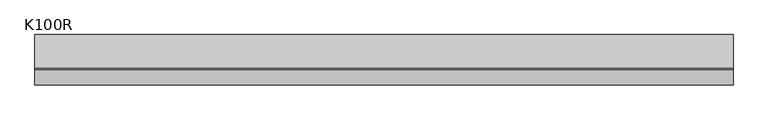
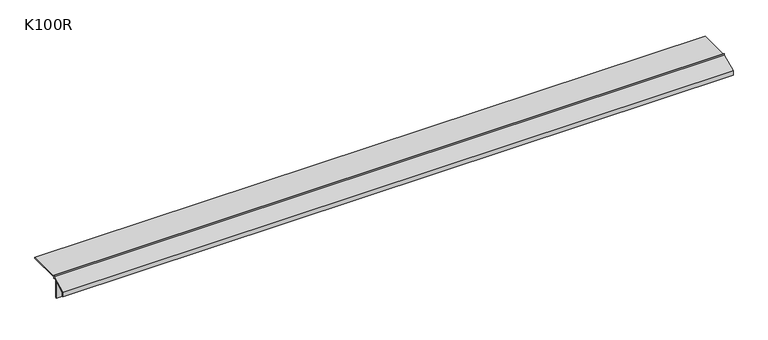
"""IFC4 building model written with IfcOpenShell, lengths in millimetres: proxy geometry, K100R Profil okapowy prosty z rynną : K100R."""

from ifc_helpers import new_model, si_unit, frame, origin, place, context, project, spatial, polyline, outline, extrude, source, transform, mapped, element, save


def k100r_570090c0(model_context):
    return source(origin(), model_context, "Body", "SweptSolid", [
        extrude(outline(polyline([(-31.2999993, -17.3500005), (-1.2999997, -2.3500002), (-1.2999997, 0.0), (0.0, 0.0), (0.0, -2.3499993), (64.7000037, -2.3499993), (64.7000037, -3.6), (0.0, -3.6), (0.0, -6.2999991), (-1.1999998, -6.2999991), (-1.1999998, -3.697542), (-6.5000001, -6.3475423), (-6.5000001, -42.1535547), (-7.9999999, -43.6535517), (-7.9999999, -7.0975422), (-30.0499993, -18.1225422), (-30.0499993, -25.9199265), (-31.2999993, -26.6), (-31.2999993, -17.3500005)])), frame((0.0, 0.0, 0.0), z_axis=(1.0, 0.0, 0.0), x_axis=(0.0, 1.0, 0.0)), (0.0, 0.0, 1.0), 1331.6534723),
    ])


if __name__ == "__main__":
    model = new_model("IFC4")
    model_context = context("Model", 3, world=origin())
    ifc_project = project(units=[si_unit("LENGTHUNIT", "METRE", prefix="MILLI")], contexts=[model_context])
    site = spatial("IfcSite", under=ifc_project)
    building = spatial("IfcBuilding", under=site)
    placement = place(None, origin())
    k100r_shape = k100r_570090c0(model_context)
    element("IfcBuildingElementProxy", 1, Name="K100R Profil okapowy prosty z rynną : K100R", ObjectType="K100R Profil okapowy prosty z rynną : K100R", at=placement, inside=building, context=model_context, shape_type="MappedRepresentation", body=[
        mapped(k100r_shape, transform((0.0, 0.0, 0.0), x_axis=(1.0, 0.0, 0.0), y_axis=(0.0, 1.0, 0.0), z_axis=(0.0, 0.0, 1.0))),
    ])
    save(model, "model.ifc")
